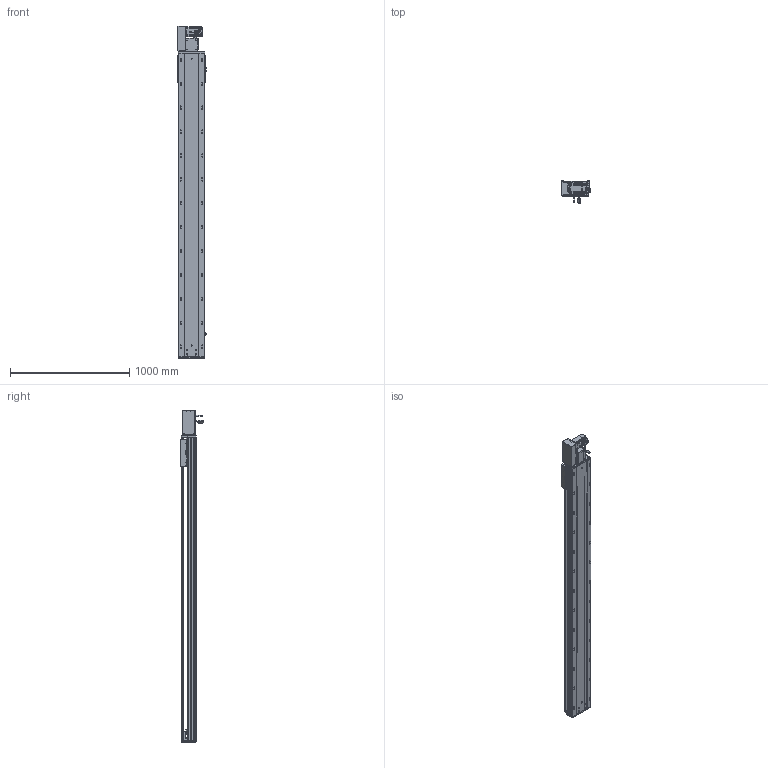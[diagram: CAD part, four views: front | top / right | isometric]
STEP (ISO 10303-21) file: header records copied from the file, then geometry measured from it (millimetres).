
FILE_DESCRIPTION (( 'STEP AP203' ), '1' );
FILE_NAME ('RY220-T-300-LK.SLDASM_2200.step', '2022-07-25T08:15:30', ( '' ), ( '' ), 'SwSTEP 2.0', 'SolidWorks 2016', '' );
FILE_SCHEMA (( 'CONFIG_CONTROL_DESIGN' ));
Length unit declared in the file: millimetre
Products named in the file (14): 怢湛750W_ECMA-CX0807ES; RY220-T-蛌殏萇儂假蚾啣(750W); 110A-T-肮祭謫釱傷裔; RY220翋肮祭謫釱; RY220-同步轮副支撑座6304×2; 覜茼ん672; RY220-T-300-LK.SLDASM_2200; RY220-俋离672覜茼んえ; RY220圉猾敕々湍臏賑輸; RY220-T-300-奻裔啣_2200; RY220-T-湍謫欶(鍼踢); RY220-T菁釱-300_2200; 滅袉蝶18-15; RY220翋肮祭謫裔啣
Assembly tree (18 placements, depth 2):
  RY220-T-300-LK.SLDASM_2200
    RY220-T菁釱-300_2200
    RY220翋肮祭謫釱
    覜茼ん672  x3
    RY220圉猾敕々湍臏賑輸
    RY220-T-300-奻裔啣_2200
    RY220-俋离672覜茼んえ
    滅袉蝶18-15  x3
    RY220翋肮祭謫裔啣  x2
    110A-T-肮祭謫釱傷裔
    怢湛750W_ECMA-CX0807ES
    RY220-T-湍謫欶(鍼踢)
    RY220-T-蛌殏萇儂假蚾啣(750W)
    RY220-同步轮副支撑座6304×2
Bounding box: 239.7 x 198.77 x 2779 mm (x, y, z)
Volume: 20027861.2 mm3; surface area: 6111368.1 mm2
Topology: 19 solids, 19 shells, 2868 faces, 7923 edges, 4982 vertices
Faces by surface type: cylinder 1388, plane 1069, cone 329, bspline 56, sphere 16, torus 10
Entity records: 95475 total; most frequent: CARTESIAN_POINT 27009, ORIENTED_EDGE 14170, DIRECTION 13588, EDGE_CURVE 7085, AXIS2_PLACEMENT_3D 4870, VERTEX_POINT 4606, VECTOR 3848, LINE 3848
